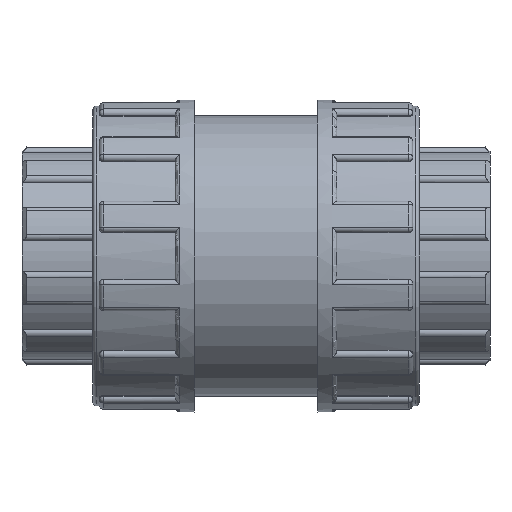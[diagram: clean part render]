
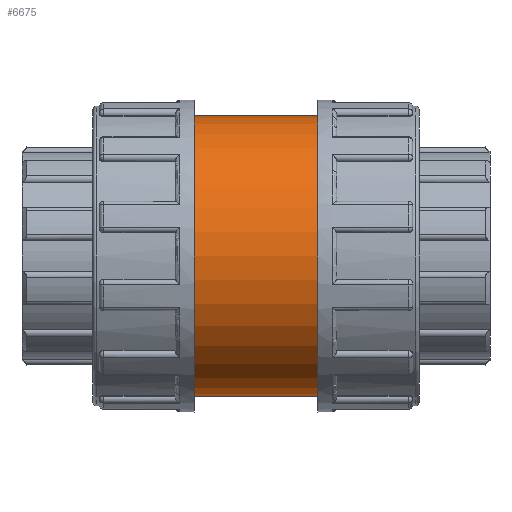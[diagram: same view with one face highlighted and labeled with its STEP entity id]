
A CAD part, front view. The second image highlights one B-rep face of the part: STEP entity #6675.
In plain terms, the highlighted cylindrical face has radius 36 mm (diameter 72 mm), a full revolution.
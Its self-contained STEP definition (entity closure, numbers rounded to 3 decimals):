
#185=FACE_BOUND('',#1099,.T.);
#186=FACE_BOUND('',#1100,.T.);
#670=FACE_OUTER_BOUND('',#1098,.T.);
#1098=EDGE_LOOP('',(#6073));
#1099=EDGE_LOOP('',(#6074));
#1100=EDGE_LOOP('',(#6075));
#1149=B_SPLINE_CURVE_WITH_KNOTS('',3,(#10735,#10736,#10737,#10738,#10739,
#10740,#10741,#10742,#10743,#10744,#10745,#10746,#10747,#10748,#10749,#10750,
#10751,#10752,#10753,#10754,#10755,#10756,#10757,#10758,#10759,#10760,#10761,
#10762,#10763,#10764,#10765,#10766,#10767,#10768),.UNSPECIFIED.,.T.,.F.,
(4,2,2,2,2,2,2,2,2,2,2,2,2,2,2,2,4),(0.,0.456,0.912,
1.368,1.823,2.279,2.735,3.191,
3.647,4.102,4.558,5.014,5.47,
5.926,6.381,6.837,7.293),
 .UNSPECIFIED.);
#2472=CIRCLE('',#7578,36.);
#2473=CIRCLE('',#7580,36.);
#2638=VERTEX_POINT('',#10734);
#3083=VERTEX_POINT('',#13353);
#3084=VERTEX_POINT('',#13356);
#3349=EDGE_CURVE('',#2638,#2638,#1149,.T.);
#4082=EDGE_CURVE('',#3083,#3083,#2472,.T.);
#4083=EDGE_CURVE('',#3084,#3084,#2473,.T.);
#6073=ORIENTED_EDGE('',*,*,#4082,.T.);
#6074=ORIENTED_EDGE('',*,*,#3349,.T.);
#6075=ORIENTED_EDGE('',*,*,#4083,.F.);
#6267=CYLINDRICAL_SURFACE('',#7579,36.);
#6675=ADVANCED_FACE('',(#670,#185,#186),#6267,.T.);
#7578=AXIS2_PLACEMENT_3D('',#13354,#9749,#9750);
#7579=AXIS2_PLACEMENT_3D('',#13355,#9751,#9752);
#7580=AXIS2_PLACEMENT_3D('',#13357,#9753,#9754);
#9749=DIRECTION('center_axis',(1.,0.,0.));
#9750=DIRECTION('ref_axis',(0.,0.,-1.));
#9751=DIRECTION('center_axis',(1.,0.,0.));
#9752=DIRECTION('ref_axis',(0.,1.,0.));
#9753=DIRECTION('center_axis',(1.,0.,0.));
#9754=DIRECTION('ref_axis',(0.,0.,-1.));
#10734=CARTESIAN_POINT('',(0.,33.941,-12.));
#10735=CARTESIAN_POINT('Ctrl Pts',(0.,33.941,
-12.));
#10736=CARTESIAN_POINT('Ctrl Pts',(1.52,33.941,-12.));
#10737=CARTESIAN_POINT('Ctrl Pts',(3.132,34.054,-11.694));
#10738=CARTESIAN_POINT('Ctrl Pts',(6.085,34.451,-10.466));
#10739=CARTESIAN_POINT('Ctrl Pts',(7.426,34.729,-9.544));
#10740=CARTESIAN_POINT('Ctrl Pts',(9.544,35.242,-7.427));
#10741=CARTESIAN_POINT('Ctrl Pts',(10.466,35.513,-6.085));
#10742=CARTESIAN_POINT('Ctrl Pts',(11.694,35.894,-3.132));
#10743=CARTESIAN_POINT('Ctrl Pts',(12.,36.,-1.519));
#10744=CARTESIAN_POINT('Ctrl Pts',(12.,36.,1.519));
#10745=CARTESIAN_POINT('Ctrl Pts',(11.694,35.894,3.132));
#10746=CARTESIAN_POINT('Ctrl Pts',(10.466,35.513,6.085));
#10747=CARTESIAN_POINT('Ctrl Pts',(9.544,35.242,7.427));
#10748=CARTESIAN_POINT('Ctrl Pts',(7.426,34.729,9.544));
#10749=CARTESIAN_POINT('Ctrl Pts',(6.085,34.451,10.466));
#10750=CARTESIAN_POINT('Ctrl Pts',(3.132,34.054,11.694));
#10751=CARTESIAN_POINT('Ctrl Pts',(1.52,33.941,12.));
#10752=CARTESIAN_POINT('Ctrl Pts',(-1.52,33.941,12.));
#10753=CARTESIAN_POINT('Ctrl Pts',(-3.132,34.054,11.694));
#10754=CARTESIAN_POINT('Ctrl Pts',(-6.085,34.451,10.466));
#10755=CARTESIAN_POINT('Ctrl Pts',(-7.426,34.729,9.544));
#10756=CARTESIAN_POINT('Ctrl Pts',(-9.544,35.242,7.427));
#10757=CARTESIAN_POINT('Ctrl Pts',(-10.466,35.513,6.085));
#10758=CARTESIAN_POINT('Ctrl Pts',(-11.694,35.894,3.132));
#10759=CARTESIAN_POINT('Ctrl Pts',(-12.,36.,1.519));
#10760=CARTESIAN_POINT('Ctrl Pts',(-12.,36.,-1.519));
#10761=CARTESIAN_POINT('Ctrl Pts',(-11.694,35.894,-3.132));
#10762=CARTESIAN_POINT('Ctrl Pts',(-10.466,35.513,-6.085));
#10763=CARTESIAN_POINT('Ctrl Pts',(-9.544,35.242,-7.427));
#10764=CARTESIAN_POINT('Ctrl Pts',(-7.426,34.729,-9.544));
#10765=CARTESIAN_POINT('Ctrl Pts',(-6.085,34.451,-10.466));
#10766=CARTESIAN_POINT('Ctrl Pts',(-3.132,34.054,-11.694));
#10767=CARTESIAN_POINT('Ctrl Pts',(-1.52,33.941,-12.));
#10768=CARTESIAN_POINT('Ctrl Pts',(0.,33.941,-12.));
#13353=CARTESIAN_POINT('',(-15.8,36.,0.));
#13354=CARTESIAN_POINT('Origin',(-15.8,0.,0.));
#13355=CARTESIAN_POINT('Origin',(0.,0.,0.));
#13356=CARTESIAN_POINT('',(15.8,36.,0.));
#13357=CARTESIAN_POINT('Origin',(15.8,0.,0.));
